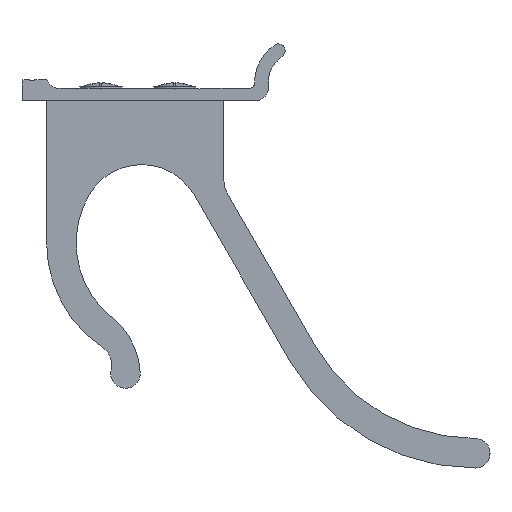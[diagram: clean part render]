
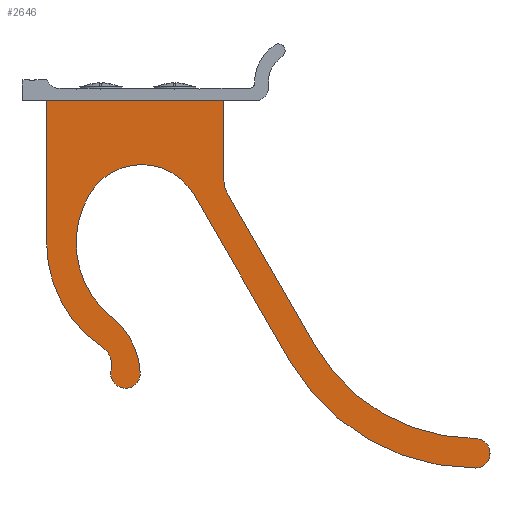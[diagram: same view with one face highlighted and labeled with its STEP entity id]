
A CAD part, front view. The second image highlights one B-rep face of the part: STEP entity #2646.
In plain terms, the highlighted planar face has unit normal (0, -1, 0).
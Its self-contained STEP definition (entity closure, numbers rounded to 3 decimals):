
#159=PLANE('',#3128);
#256=CIRCLE('',#3127,3.2);
#257=CIRCLE('',#3129,25.45);
#258=CIRCLE('',#3130,4.25);
#259=CIRCLE('',#3131,3.);
#260=CIRCLE('',#3132,15.);
#261=CIRCLE('',#3133,19.45);
#262=CIRCLE('',#3134,12.3);
#263=CIRCLE('',#3135,43.4);
#264=CIRCLE('',#3136,3.);
#265=CIRCLE('',#3137,37.4);
#266=CIRCLE('',#3138,5.);
#901=ORIENTED_EDGE('',*,*,#1407,.T.);
#902=ORIENTED_EDGE('',*,*,#1406,.T.);
#903=ORIENTED_EDGE('',*,*,#1408,.T.);
#904=ORIENTED_EDGE('',*,*,#1409,.T.);
#905=ORIENTED_EDGE('',*,*,#1410,.T.);
#906=ORIENTED_EDGE('',*,*,#1411,.T.);
#907=ORIENTED_EDGE('',*,*,#1412,.T.);
#908=ORIENTED_EDGE('',*,*,#1413,.T.);
#909=ORIENTED_EDGE('',*,*,#1414,.T.);
#910=ORIENTED_EDGE('',*,*,#1415,.T.);
#911=ORIENTED_EDGE('',*,*,#1416,.T.);
#912=ORIENTED_EDGE('',*,*,#1417,.T.);
#913=ORIENTED_EDGE('',*,*,#1418,.T.);
#914=ORIENTED_EDGE('',*,*,#1419,.T.);
#915=ORIENTED_EDGE('',*,*,#1420,.T.);
#916=ORIENTED_EDGE('',*,*,#1400,.T.);
#1400=EDGE_CURVE('',#1703,#1701,#1906,.T.);
#1406=EDGE_CURVE('',#1706,#1708,#256,.T.);
#1407=EDGE_CURVE('',#1701,#1706,#1911,.T.);
#1408=EDGE_CURVE('',#1708,#1709,#1912,.T.);
#1409=EDGE_CURVE('',#1709,#1710,#257,.T.);
#1410=EDGE_CURVE('',#1710,#1711,#258,.T.);
#1411=EDGE_CURVE('',#1711,#1712,#259,.T.);
#1412=EDGE_CURVE('',#1712,#1713,#260,.T.);
#1413=EDGE_CURVE('',#1713,#1714,#261,.T.);
#1414=EDGE_CURVE('',#1714,#1715,#262,.T.);
#1415=EDGE_CURVE('',#1715,#1716,#1913,.T.);
#1416=EDGE_CURVE('',#1716,#1717,#263,.T.);
#1417=EDGE_CURVE('',#1717,#1718,#264,.T.);
#1418=EDGE_CURVE('',#1718,#1719,#265,.T.);
#1419=EDGE_CURVE('',#1719,#1720,#1914,.T.);
#1420=EDGE_CURVE('',#1720,#1703,#266,.T.);
#1701=VERTEX_POINT('',#4671);
#1703=VERTEX_POINT('',#4674);
#1706=VERTEX_POINT('',#4681);
#1708=VERTEX_POINT('',#4685);
#1709=VERTEX_POINT('',#4690);
#1710=VERTEX_POINT('',#4692);
#1711=VERTEX_POINT('',#4694);
#1712=VERTEX_POINT('',#4696);
#1713=VERTEX_POINT('',#4698);
#1714=VERTEX_POINT('',#4700);
#1715=VERTEX_POINT('',#4702);
#1716=VERTEX_POINT('',#4704);
#1717=VERTEX_POINT('',#4706);
#1718=VERTEX_POINT('',#4708);
#1719=VERTEX_POINT('',#4710);
#1720=VERTEX_POINT('',#4712);
#1906=LINE('',#4673,#2090);
#1911=LINE('',#4688,#2095);
#1912=LINE('',#4689,#2096);
#1913=LINE('',#4703,#2097);
#1914=LINE('',#4711,#2098);
#2090=VECTOR('',#3750,1000.);
#2095=VECTOR('',#3763,1000.);
#2096=VECTOR('',#3764,1000.);
#2097=VECTOR('',#3777,1000.);
#2098=VECTOR('',#3784,1000.);
#2261=EDGE_LOOP('',(#901,#902,#903,#904,#905,#906,#907,#908,#909,#910,#911,
#912,#913,#914,#915,#916));
#2430=FACE_BOUND('',#2261,.T.);
#2646=ADVANCED_FACE('',(#2430),#159,.F.);
#3127=AXIS2_PLACEMENT_3D('',#4686,#3759,#3760);
#3128=AXIS2_PLACEMENT_3D('',#4687,#3761,#3762);
#3129=AXIS2_PLACEMENT_3D('',#4691,#3765,#3766);
#3130=AXIS2_PLACEMENT_3D('',#4693,#3767,#3768);
#3131=AXIS2_PLACEMENT_3D('',#4695,#3769,#3770);
#3132=AXIS2_PLACEMENT_3D('',#4697,#3771,#3772);
#3133=AXIS2_PLACEMENT_3D('',#4699,#3773,#3774);
#3134=AXIS2_PLACEMENT_3D('',#4701,#3775,#3776);
#3135=AXIS2_PLACEMENT_3D('',#4705,#3778,#3779);
#3136=AXIS2_PLACEMENT_3D('',#4707,#3780,#3781);
#3137=AXIS2_PLACEMENT_3D('',#4709,#3782,#3783);
#3138=AXIS2_PLACEMENT_3D('',#4713,#3785,#3786);
#3750=DIRECTION('',(-1.,0.,0.));
#3759=DIRECTION('',(0.,-1.,0.));
#3760=DIRECTION('',(1.,0.,0.));
#3761=DIRECTION('',(0.,1.,0.));
#3762=DIRECTION('',(0.,0.,1.));
#3763=DIRECTION('',(0.,0.,-1.));
#3764=DIRECTION('',(1.,0.,0.));
#3765=DIRECTION('',(0.,-1.,0.));
#3766=DIRECTION('',(1.,0.,0.));
#3767=DIRECTION('',(0.,1.,0.));
#3768=DIRECTION('',(1.,0.,0.));
#3769=DIRECTION('',(0.,-1.,0.));
#3770=DIRECTION('',(-1.,0.,0.));
#3771=DIRECTION('',(0.,-1.,0.));
#3772=DIRECTION('',(1.,0.,0.));
#3773=DIRECTION('',(0.,1.,0.));
#3774=DIRECTION('',(1.,0.,0.));
#3775=DIRECTION('',(0.,1.,0.));
#3776=DIRECTION('',(1.,0.,0.));
#3777=DIRECTION('',(0.866,0.,0.5));
#3778=DIRECTION('',(0.,-1.,0.));
#3779=DIRECTION('',(-1.,0.,0.));
#3780=DIRECTION('',(0.,-1.,0.));
#3781=DIRECTION('',(1.,0.,0.));
#3782=DIRECTION('',(0.,1.,0.));
#3783=DIRECTION('',(1.,0.,0.));
#3784=DIRECTION('',(-0.866,0.,-0.5));
#3785=DIRECTION('',(0.,1.,0.));
#3786=DIRECTION('',(1.,0.,0.));
#4671=CARTESIAN_POINT('',(-32.578,-7.5,-9.));
#4673=CARTESIAN_POINT('',(-16.261,-7.5,-9.));
#4674=CARTESIAN_POINT('',(-16.261,-7.5,-9.));
#4681=CARTESIAN_POINT('',(-32.578,-7.5,-45.));
#4685=CARTESIAN_POINT('',(-32.569,-7.5,-45.));
#4686=CARTESIAN_POINT('',(-32.569,-7.5,-41.8));
#4687=CARTESIAN_POINT('',(-16.261,-7.5,-4.));
#4688=CARTESIAN_POINT('',(-32.578,-7.5,-3.016));
#4689=CARTESIAN_POINT('',(-32.569,-7.5,-45.));
#4690=CARTESIAN_POINT('',(-3.679,-7.5,-45.));
#4691=CARTESIAN_POINT('',(-3.679,-7.5,-19.55));
#4692=CARTESIAN_POINT('',(17.495,-7.5,-33.67));
#4693=CARTESIAN_POINT('',(21.031,-7.5,-36.027));
#4694=CARTESIAN_POINT('',(22.076,-7.5,-31.908));
#4695=CARTESIAN_POINT('',(22.814,-7.5,-29.));
#4696=CARTESIAN_POINT('',(22.696,-7.5,-26.002));
#4697=CARTESIAN_POINT('',(23.286,-7.5,-40.991));
#4698=CARTESIAN_POINT('',(11.545,-7.5,-31.655));
#4699=CARTESIAN_POINT('',(-3.679,-7.5,-19.55));
#4700=CARTESIAN_POINT('',(-13.492,-7.5,-36.343));
#4701=CARTESIAN_POINT('',(-7.286,-7.5,-25.723));
#4702=CARTESIAN_POINT('',(-13.436,-7.5,-15.071));
#4703=CARTESIAN_POINT('',(-13.436,-7.5,-15.071));
#4704=CARTESIAN_POINT('',(20.314,-7.5,4.415));
#4705=CARTESIAN_POINT('',(-1.386,-7.5,42.));
#4706=CARTESIAN_POINT('',(42.014,-7.5,42.));
#4707=CARTESIAN_POINT('',(39.014,-7.5,42.));
#4708=CARTESIAN_POINT('',(36.014,-7.5,42.));
#4709=CARTESIAN_POINT('',(-1.386,-7.5,42.));
#4710=CARTESIAN_POINT('',(17.314,-7.5,9.611));
#4711=CARTESIAN_POINT('',(17.314,-7.5,9.611));
#4712=CARTESIAN_POINT('',(-13.761,-7.5,-8.33));
#4713=CARTESIAN_POINT('',(-16.261,-7.5,-4.));
